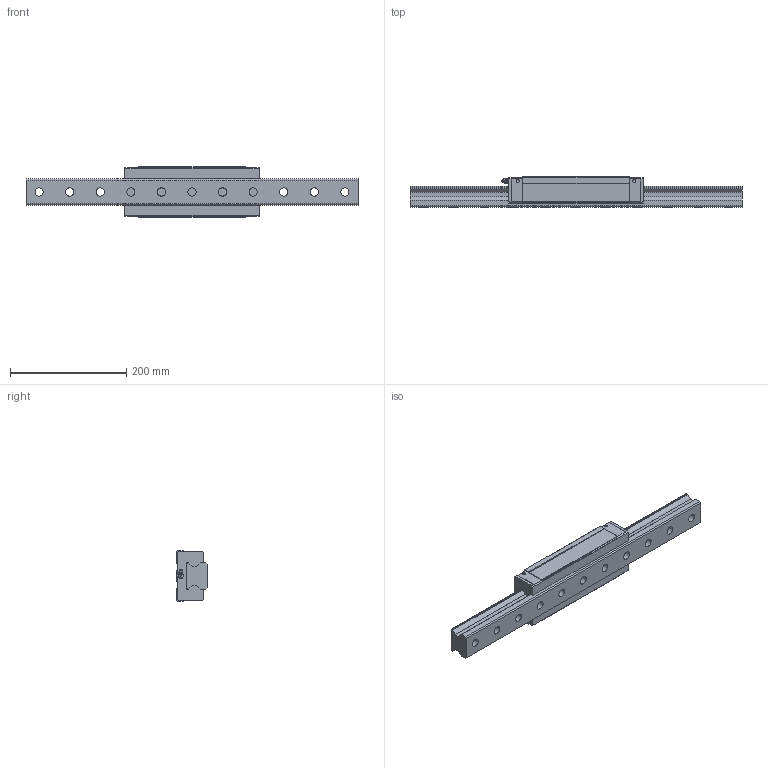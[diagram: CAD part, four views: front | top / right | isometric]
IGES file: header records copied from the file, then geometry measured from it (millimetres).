
Start section: Data from Parasolid IGES Translator 26.0.171, Copyright(c) 2006 Siemens PLM Software. All Rights Reserved.
Global section: file name: SRN45SLR1SS-570L_G22-5_0_B-M6F_169-25_0_0_0_1.igs; native system: By Siemens PLM Incorporated; preprocessor: XPlus GENERIC/IGES 26.0.171; author: Noname; organization: Noname; date: 20240523.105830; units: millimetre
Bounding box: 570 x 52 x 86 mm (x, y, z)
Surface area: 201854.2 mm2 (no closed solid volume)
Topology: 0 solids, 0 shells, 233 faces, 1209 edges, 1104 vertices
Faces by surface type: extrusion 129, revolution 104
